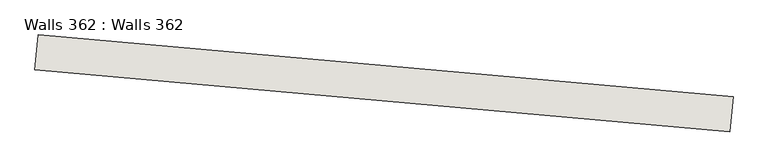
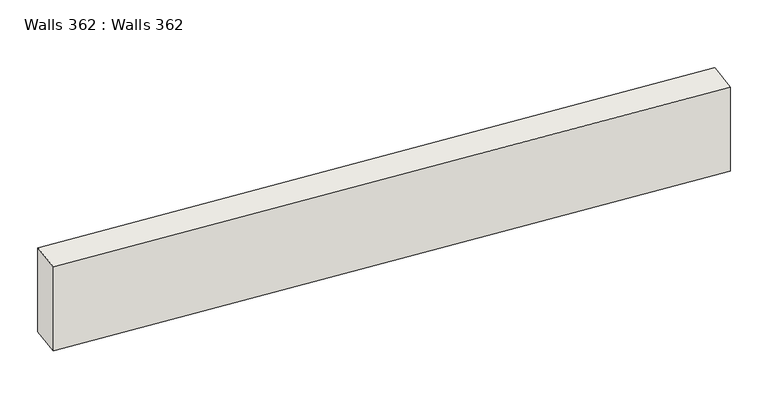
"""IFC4 building model written with IfcOpenShell, lengths in millimetres: wall geometry, Walls 362 : Walls 362."""

from ifc_helpers import new_model, si_unit, frame, origin, place, context, project, spatial, polyline, outline, extrude, source, transform, mapped, element, save


def walls_362_walls_362_f095b498(model_context):
    return source(origin(), model_context, "Body", "SweptSolid", [
        extrude(outline(polyline([(-706507.3966064, -415737.0415952), (-706542.8915365, -416135.4636201), (-714511.3320349, -415425.5650188), (-714475.8371049, -415027.1429939), (-706507.3966064, -415737.0415952)])), frame((0.0, 0.0, 635360.0), z_axis=(0.0, 0.0, 1.0), x_axis=(1.0, 0.0, 0.0)), (0.0, 0.0, 1.0), 1100.0),
    ])


if __name__ == "__main__":
    model = new_model("IFC4")
    model_context = context("Model", 3, world=origin())
    ifc_project = project(units=[si_unit("LENGTHUNIT", "METRE", prefix="MILLI")], contexts=[model_context])
    site = spatial("IfcSite", under=ifc_project)
    building = spatial("IfcBuilding", under=site)
    placement = place(None, origin())
    walls_362_walls_362_shape = walls_362_walls_362_f095b498(model_context)
    element("IfcWall", 1, ObjectType="Walls 362 : Walls 362", at=placement, inside=building, context=model_context, shape_type="MappedRepresentation", body=[
        mapped(walls_362_walls_362_shape, transform((0.0, 0.0, 0.0), x_axis=(1.0, 0.0, 0.0), y_axis=(0.0, 1.0, 0.0), z_axis=(0.0, 0.0, 1.0))),
    ])
    save(model, "model.ifc")
